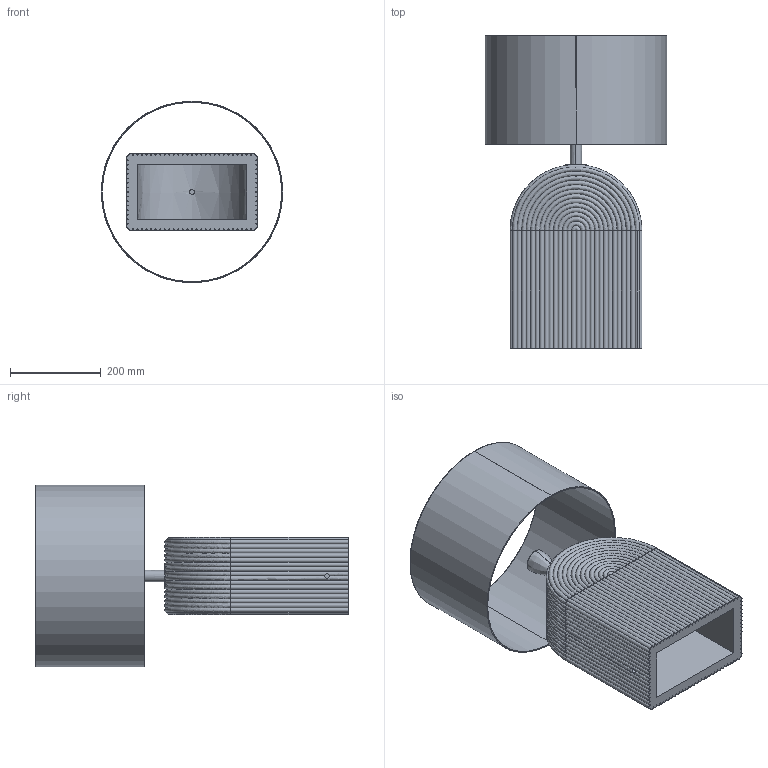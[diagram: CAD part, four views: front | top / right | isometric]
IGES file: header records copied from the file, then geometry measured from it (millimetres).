
Start section: SolidWorks IGES file using analytic representation for surfaces
Global section: file name: C:\Users\Agustin\Desktop\ARNOLD\2024 SEPTIEMBRE\2D\LO`PO\2D-3D NAC137\LOPO_NAC137.IGS; native system: SolidWorks 2018; preprocessor: SolidWorks 2018; author: Agustin; date: 240918.112700; units: millimetre
Bounding box: 400 x 690 x 400 mm (x, y, z)
Surface area: 1492957.9 mm2 (no closed solid volume)
Topology: 0 solids, 0 shells, 171 faces, 3475 edges, 3475 vertices
Faces by surface type: revolution 106, bspline 65
